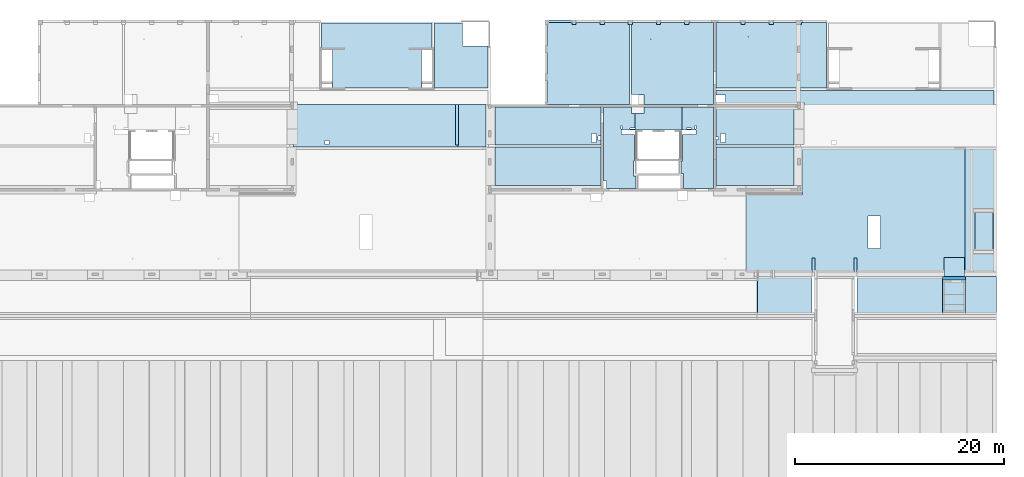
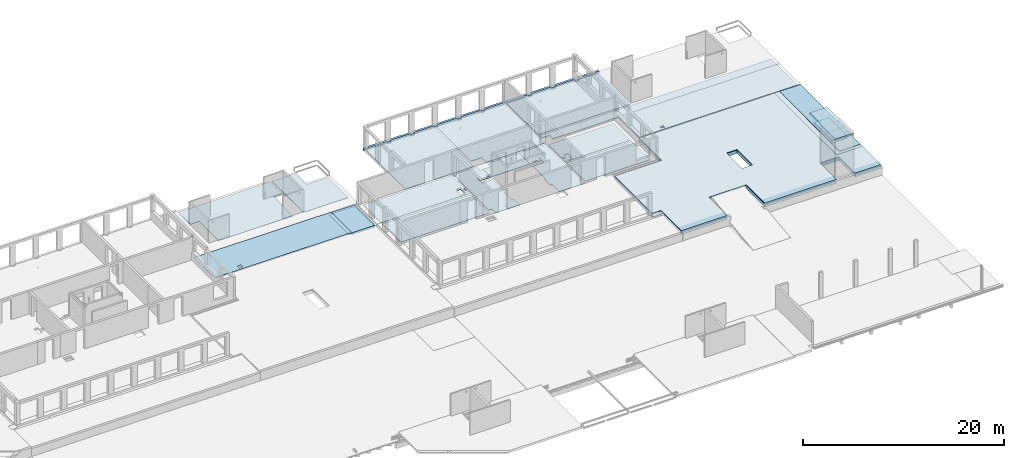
# One storey, part 17 of 36: 27 slabs, 24 openings.
"""IFC2X3 building model written with IfcOpenShell, lengths in millimetres."""

from ifc_helpers import new_model, entity, si_unit, converted_unit, derived_unit, direction, frame, frame_2d, origin, origin_2d_with_axis, place, context, subcontext, project, spatial, polyline, rectangle, circle, outline, extrude, clip, halfspace, material, layer, layer_set, layer_usage, element, save


model = new_model("IFC2X3")

# Units and contexts
model_context = context("Model", 3, precision=0.01, world=origin(), true_north=direction((6.12303176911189e-17, 1.0)))
body_context = subcontext(model_context, "Body", "Model", "MODEL_VIEW")
ifc_project = project(units=[si_unit("LENGTHUNIT", "METRE", prefix="MILLI"), si_unit("AREAUNIT", "SQUARE_METRE"), si_unit("VOLUMEUNIT", "CUBIC_METRE"), converted_unit("PLANEANGLEUNIT", "DEGREE", entity("IfcRatioMeasure", 0.0174532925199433), si_unit("PLANEANGLEUNIT", "RADIAN"), dimensions=[0, 0, 0, 0, 0, 0, 0]), si_unit("MASSUNIT", "GRAM", prefix="KILO"), derived_unit("MASSDENSITYUNIT", [(si_unit("MASSUNIT", "GRAM", prefix="KILO"), 1), (si_unit("LENGTHUNIT", "METRE"), -3)]), si_unit("TIMEUNIT", "SECOND"), si_unit("FREQUENCYUNIT", "HERTZ"), si_unit("THERMODYNAMICTEMPERATUREUNIT", "DEGREE_CELSIUS"), derived_unit("THERMALTRANSMITTANCEUNIT", [(si_unit("MASSUNIT", "GRAM", prefix="KILO"), 1), (si_unit("THERMODYNAMICTEMPERATUREUNIT", "KELVIN"), -1), (si_unit("TIMEUNIT", "SECOND"), -3)]), derived_unit("VOLUMETRICFLOWRATEUNIT", [(si_unit("LENGTHUNIT", "METRE"), 3), (si_unit("TIMEUNIT", "SECOND"), -1)]), si_unit("ELECTRICCURRENTUNIT", "AMPERE"), si_unit("ELECTRICVOLTAGEUNIT", "VOLT"), si_unit("POWERUNIT", "WATT"), si_unit("FORCEUNIT", "NEWTON", prefix="KILO"), si_unit("ILLUMINANCEUNIT", "LUX"), si_unit("LUMINOUSFLUXUNIT", "LUMEN"), si_unit("LUMINOUSINTENSITYUNIT", "CANDELA"), derived_unit("USERDEFINED", [(si_unit("MASSUNIT", "GRAM", prefix="KILO"), -1), (si_unit("LENGTHUNIT", "METRE"), -2), (si_unit("TIMEUNIT", "SECOND"), 3), (si_unit("LUMINOUSFLUXUNIT", "LUMEN"), 1)]), derived_unit("LINEARVELOCITYUNIT", [(si_unit("LENGTHUNIT", "METRE"), 1), (si_unit("TIMEUNIT", "SECOND"), -1)]), si_unit("PRESSUREUNIT", "PASCAL"), derived_unit("USERDEFINED", [(si_unit("LENGTHUNIT", "METRE"), -2), (si_unit("MASSUNIT", "GRAM", prefix="KILO"), 1), (si_unit("TIMEUNIT", "SECOND"), -2)])], contexts=[model_context])

# Site, building, storey
site_placement = place(None, origin())
site = spatial("IfcSite", under=ifc_project, at=site_placement, Name="Default", CompositionType="ELEMENT")
building_placement = place(site_placement, origin())
building = spatial("IfcBuilding", under=site, at=building_placement, Name="niet gebruiken", CompositionType="ELEMENT")
storey_placement = place(building_placement, frame((0.0, 0.0, 12600.0)))
storey = spatial("IfcBuildingStorey", under=building, at=storey_placement, Name="04 vierde verdieping", CompositionType="ELEMENT", Elevation=12600.0)

# Slabs
ifc_material_1 = material(Name="NLRS_f2_beton prefab")
ifc_layer_1 = layer(ifc_material_1, 400.0)
ifc_layer_set_1 = layer_set([ifc_layer_1], Name="Floor:NLRS_23.21_FL_kanaalplaat d=400_gen")
ifc_layer_usage_1 = layer_usage(ifc_layer_set_1, "AXIS3", "POSITIVE", 0.0)
slab_1_placement = place(storey_placement, origin())
element("IfcSlab", 1, at=slab_1_placement, inside=storey, material=ifc_layer_usage_1, Name="Floor:NLRS_23.21_FL_kanaalplaat d=400_gen", ObjectType="Floor:NLRS_23.21_FL_kanaalplaat d=400_gen", PredefinedType="FLOOR", context=body_context, shape_type="SweptSolid", body=[
    extrude(outline(polyline([(-2353.33333333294, -1776.66666666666), (1071.6666666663, -1776.66666666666), (1071.6666666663, -1676.66666666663), (1281.66666666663, -1676.66666666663), (1281.66666666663, 3453.33333333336), (-2353.33333333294, 3453.33333333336), (-2353.33333333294, -1776.66666666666)])), frame((103046.666666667, 27374.3333333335, -240.0), z_axis=(0.0, 0.0, -1.0), x_axis=(0.0, 1.0, 0.0)), (0.0, 0.0, 1.0), 400.0),
])
ifc_layer_usage_2 = layer_usage(ifc_layer_set_1, "AXIS3", "POSITIVE", 0.0)
slab_2_placement = place(storey_placement, frame((110845.0, 25021.0, -640.0)))
element("IfcSlab", 2, at=slab_2_placement, inside=storey, material=ifc_layer_usage_2, Name="Floor:NLRS_23.21_FL_kanaalplaat d=400_gen", ObjectType="Floor:NLRS_23.21_FL_kanaalplaat d=400_gen", PredefinedType="FLOOR", context=body_context, shape_type="SweptSolid", body=[
    extrude(rectangle(XDim=8210.00000000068, YDim=3639.99999999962, at=frame_2d((2572.49999999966, 0.0), x_axis=(-1.0, 0.0))), frame((6677.5, 1820.0, 400.0), z_axis=(0.0, 0.0, -1.0), x_axis=(-1.0, 0.0, 0.0)), (0.0, 0.0, 1.0), 400.0),
])
slab_3_placement = place(storey_placement, frame((110845.0, 25021.0, -640.0)))
element("IfcSlab", 3, at=slab_3_placement, inside=storey, material=ifc_layer_usage_2, Name="Floor:NLRS_23.21_FL_kanaalplaat d=400_gen:2", ObjectType="Floor:NLRS_23.21_FL_kanaalplaat d=400_gen", PredefinedType="FLOOR", context=body_context, shape_type="SweptSolid", body=[
    extrude(rectangle(XDim=2954.99999999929, YDim=3639.99999999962, at=frame_2d((-5200.0, 0.0), x_axis=(1.0, 0.0))), frame((6677.5, 1820.0, 400.0), z_axis=(0.0, 0.0, -1.0), x_axis=(-1.0, 0.0, 0.0)), (0.0, 0.0, 1.0), 400.0),
])

# Slab, openings
ifc_layer_usage_3 = layer_usage(ifc_layer_set_1, "AXIS3", "POSITIVE", 0.0)
slab_4_placement = place(storey_placement, frame((100225.0, 29101.0, -640.0)))
slab_4 = element("IfcSlab", 4, at=slab_4_placement, inside=storey, material=ifc_layer_usage_3, Name="Floor:NLRS_23.21_FL_kanaalplaat d=400_gen", ObjectType="Floor:NLRS_23.21_FL_kanaalplaat d=400_gen", PredefinedType="FLOOR", context=body_context, shape_type="SweptSolid", body=[
    extrude(outline(polyline([(-11987.5000000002, 5970.0), (-11987.5000000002, 74.0), (-9487.50000000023, 74.0), (-9487.50000000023, -4216.0), (-11987.5000000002, -4216.0), (-11987.5000000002, -5970.0), (1367.50000000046, -5970.0), (1367.50000000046, -4625.0), (1657.50000000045, -4625.0), (1657.50000000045, -5970.0), (5417.50000000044, -5970.0), (5417.50000000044, -4625.0), (5707.50000000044, -4625.0), (5707.50000000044, -5970.0), (11987.5000000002, -5970.0), (11987.5000000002, 1465.0), (6587.50000000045, 1465.0), (6587.50000000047, 5970.0), (-11987.5000000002, 5970.0)])), frame((11987.5000000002, 5970.0, 400.0), z_axis=(0.0, 0.0, -1.0), x_axis=(-1.0, 0.0, 0.0)), (0.0, 0.0, 1.0), 400.0),
])
opening_1_placement = place(slab_4_placement, origin())
element("IfcOpeningElement", 5, at=opening_1_placement, cuts=slab_4, ObjectType="Opening", context=body_context, shape_type="SweptSolid", body=[
    extrude(rectangle(XDim=1200.0, YDim=3100.0, at=origin_2d_with_axis()), frame((12275.0, 3805.0, 230.0), z_axis=(0.0, 0.0, 1.0), x_axis=(-1.0, 0.0, 0.0)), (0.0, 0.0, 1.0), 249.999999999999),
])
opening_2_placement = place(slab_4_placement, frame((12275.0, 3805.0, 400.0)))
element("IfcOpeningElement", 6, at=opening_2_placement, cuts=slab_4, Name="Floor:NLRS_23.21_FL_kanaalplaat d=400_gen:2", ObjectType="Opening", context=body_context, shape_type="SweptSolid", body=[
    extrude(rectangle(XDim=3100.00000000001, YDim=1200.0, at=origin_2d_with_axis()), frame((0.0, 0.0, 0.0), z_axis=(0.0, 0.0, -1.0), x_axis=(0.0, -1.0, 0.0)), (0.0, 0.0, 1.0), 400.0),
])

ifc_material_2 = material(Name="NLRS_f2_beton ihwg")
ifc_layer_2 = layer(ifc_material_2, 80.0)
ifc_layer_set_2 = layer_set([ifc_layer_2], Name="Floor:NLRS_23.21_FL_druklaag d=80_gen")
ifc_layer_usage_4 = layer_usage(ifc_layer_set_2, "AXIS3", "POSITIVE", 0.0)
slab_5_placement = place(storey_placement, frame((100225.0, 25001.0, -240.0)))
slab_5 = element("IfcSlab", 7, at=slab_5_placement, inside=storey, material=ifc_layer_usage_4, Name="Floor:NLRS_23.21_FL_druklaag d=80_gen", ObjectType="Floor:NLRS_23.21_FL_druklaag d=80_gen", PredefinedType="FLOOR", context=body_context, shape_type="SweptSolid", body=[
    extrude(outline(polyline([(11987.499999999, 3535.0), (6587.50000000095, 3535.0), (6587.50000000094, 8020.0), (-8987.49999999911, 8020.0), (-8987.49999999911, -4340.0), (-11987.499999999, -4340.0), (-11987.499999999, -8020.0), (-9012.49999999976, -8020.0), (-9012.49999999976, -4715.0), (-6862.49999999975, -4715.0), (-6862.49999999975, -8020.0), (1387.50000000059, -8020.0), (1387.50000000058, -4340.0), (5692.49999999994, -4340.0), (5692.49999999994, -8020.0), (10952.5, -8020.0), (10952.5, -3940.0), (11987.499999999, -3940.0), (11987.499999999, 3535.0)])), frame((11987.499999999, 8020.0, 80.0), z_axis=(0.0, 0.0, -1.0), x_axis=(-1.0, 0.0, 0.0)), (0.0, 0.0, 1.0), 79.9999999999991),
])
opening_3_placement = place(slab_5_placement, origin())
element("IfcOpeningElement", 8, at=opening_3_placement, cuts=slab_5, ObjectType="Opening", context=body_context, shape_type="SweptSolid", body=[
    extrude(rectangle(XDim=1200.0, YDim=3100.0, at=origin_2d_with_axis()), frame((12275.0, 7905.0, -170.0), z_axis=(0.0, 0.0, 1.0), x_axis=(-1.0, 0.0, 0.0)), (0.0, 0.0, 1.0), 249.999999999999),
])
opening_4_placement = place(slab_5_placement, origin())
element("IfcOpeningElement", 9, at=opening_4_placement, cuts=slab_5, ObjectType="Opening", context=body_context, shape_type="SweptSolid", body=[
    extrude(rectangle(XDim=300.000000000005, YDim=5449.9999999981, at=origin_2d_with_axis()), frame((2675.0, 11705.0, 90.0), z_axis=(0.0, 0.0, 1.0), x_axis=(0.0, 1.0, 0.0)), (0.0, 0.0, 1.0), 60.0000000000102),
])

# Slabs
ifc_layer_3 = layer(ifc_material_2, 250.0)
ifc_layer_set_3 = layer_set([ifc_layer_3], Name="Floor:NLRS_23.21_FL_breedplaat d=70/250_schil apart_gen")
ifc_layer_usage_5 = layer_usage(ifc_layer_set_3, "AXIS3", "POSITIVE", 0.0)
slab_6_placement = place(storey_placement, frame((80900.0, 53006.0, -340.0)))
element("IfcSlab", 10, at=slab_6_placement, inside=storey, material=ifc_layer_usage_5, Name="Floor:NLRS_23.21_FL_breedplaat d=70/250_schil apart_gen", ObjectType="Floor:NLRS_23.21_FL_breedplaat d=70/250_schil apart_gen", PredefinedType="FLOOR", context=body_context, shape_type="SweptSolid", body=[
    extrude(outline(polyline([(13540.0, 125.0), (-13540.0, 125.0), (-13540.0, -125.0), (-11065.0, -125.0), (-11065.0, -285.0), (-10655.0, -285.0), (-10655.0, -125.0), (-8365.0, -125.0), (-8365.0, -285.0), (-7955.0, -285.0), (-7955.0, -125.0), (-5665.0, -125.0), (-5665.0, -285.0), (-5255.0, -285.0), (-5255.0, -125.0), (-265.0, -125.0), (-265.0, -285.0), (145.0, -285.0), (145.0, -125.0), (2435.0, -125.0), (2435.0, -285.0), (2845.0, -285.0), (2845.0, -125.0), (5135.0, -125.0), (5135.0, -285.0), (5545.0, -285.0), (5545.0, -125.0), (7835.0, -125.0), (7835.0, -285.0), (8245.0, -285.0), (8245.0, -125.0), (10535.0, -125.0), (10535.0, -285.0), (10945.0, -285.0), (10945.0, -125.0), (13540.0, -125.0), (13540.0, 125.0)])), frame((13540.0, 125.0, 250.0), z_axis=(0.0, 0.0, -1.0), x_axis=(-1.0, 0.0, 0.0)), (0.0, 0.0, 1.0), 249.999999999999),
])
ifc_layer_4 = layer(ifc_material_1, 200.0)
ifc_layer_set_4 = layer_set([ifc_layer_4], Name="Floor:NLRS_27.21_FL_beton prefab d=200_gen")
ifc_layer_usage_6 = layer_usage(ifc_layer_set_4, "AXIS3", "POSITIVE", 0.0)
slab_7_placement = place(storey_placement, origin())
element("IfcSlab", 11, at=slab_7_placement, inside=storey, material=ifc_layer_usage_6, Name="Floor:NLRS_27.21_FL_beton prefab d=200_gen", ObjectType="Floor:NLRS_27.21_FL_beton prefab d=200_gen", PredefinedType="ROOF", context=body_context, shape_type="SweptSolid", body=[
    extrude(outline(polyline([(-2851.25, -1075.0), (228.750000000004, -1075.0), (228.750000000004, -995.0), (2393.75, -995.0), (2393.75, 995.0), (228.75, 995.0), (228.75, 1075.0), (-2851.25, 1075.0), (-2851.25, -1075.0)])), frame((120150.0, 28077.2500000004, 4610.0), z_axis=(0.0, 0.0, -1.0), x_axis=(0.0, 1.0, 0.0)), (0.0, 0.0, 1.0), 200.0),
])
ifc_layer_5 = layer(ifc_material_2, 410.0)
ifc_layer_set_5 = layer_set([ifc_layer_5], Name="Floor:NLRS_23.21_FL_beton ihwg d=410_gen")
ifc_layer_usage_7 = layer_usage(ifc_layer_set_5, "AXIS3", "POSITIVE", 0.0)
slab_8_placement = place(storey_placement, origin())
element("IfcSlab", 12, at=slab_8_placement, inside=storey, material=ifc_layer_usage_7, Name="Floor:NLRS_23.21_FL_beton ihwg d=410_gen", ObjectType="Floor:NLRS_23.21_FL_beton ihwg d=410_gen", PredefinedType="FLOOR", context=body_context, shape_type="SweptSolid", body=[
    extrude(rectangle(XDim=374.999999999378, YDim=2190.0, at=frame_2d((2.1600499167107e-12, -8.64019966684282e-12), x_axis=(1.0, 0.0))), frame((120150.0, 28493.5000000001, -240.0), z_axis=(0.0, 0.0, -1.0), x_axis=(0.0, 1.0, 0.0)), (0.0, 0.0, 1.0), 410.0),
])
ifc_layer_6 = layer(ifc_material_1, 70.0)
ifc_layer_set_6 = layer_set([ifc_layer_6], Name="Floor:NLRS_23.21_FL_breedplaatschil d=70_gen")
ifc_layer_usage_8 = layer_usage(ifc_layer_set_6, "AXIS3", "POSITIVE", 0.0)
slab_9_placement = place(storey_placement, origin())
element("IfcSlab", 13, at=slab_9_placement, inside=storey, material=ifc_layer_usage_8, Name="Floor:NLRS_23.21_FL_breedplaatschil d=70_gen", ObjectType="Floor:NLRS_23.21_FL_breedplaatschil d=70_gen", PredefinedType="FLOOR", context=body_context, shape_type="SweptSolid", body=[
    extrude(outline(polyline([(360.0, -5295.0), (2770.0, -5295.0), (2770.0, 5295.0), (360.0, 5295.0), (360.0, 4275.0), (-3490.0, 4275.0), (-3490.0, -4275.0), (360.0, -4275.0), (360.0, -5295.0)])), frame((64800.0, 50216.0, -270.0), z_axis=(0.0, 0.0, -1.0), x_axis=(0.0, 1.0, 0.0)), (0.0, 0.0, 1.0), 69.9999999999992),
])
ifc_layer_usage_9 = layer_usage(ifc_layer_set_6, "AXIS3", "POSITIVE", 0.0)
slab_10_placement = place(storey_placement, origin())
element("IfcSlab", 14, at=slab_10_placement, inside=storey, material=ifc_layer_usage_9, Name="Floor:NLRS_23.21_FL_breedplaatschil d=70_gen", ObjectType="Floor:NLRS_23.21_FL_breedplaatschil d=70_gen", PredefinedType="FLOOR", context=body_context, shape_type="SweptSolid", body=[
    extrude(outline(polyline([(-3430.0, -2613.33333333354), (2830.0, -2613.33333333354), (2830.0, 61.6666666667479), (600.0, 61.6666666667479), (600.0, 2551.66666666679), (-3430.0, 2551.66666666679), (-3430.0, -2613.33333333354)])), frame((72918.3333333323, 50156.0, -270.0), z_axis=(0.0, 0.0, -1.0), x_axis=(0.0, 1.0, 0.0)), (0.0, 0.0, 1.0), 69.9999999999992),
])

# Slab, openings
ifc_layer_usage_10 = layer_usage(ifc_layer_set_6, "AXIS3", "POSITIVE", 0.0)
slab_11_placement = place(storey_placement, frame((86505.0, 37086.0, -340.0)))
slab_11 = element("IfcSlab", 15, at=slab_11_placement, inside=storey, material=ifc_layer_usage_10, Name="Floor:NLRS_23.21_FL_breedplaatschil d=70_gen", ObjectType="Floor:NLRS_23.21_FL_breedplaatschil d=70_gen", PredefinedType="FLOOR", context=body_context, shape_type="SweptSolid", body=[
    extrude(outline(polyline([(2295.00015089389, 1250.0), (2295.00015089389, -1280.0), (2390.0, -1280.0), (2390.0, -2700.0), (2170.00021676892, -2700.0), (2170.00021676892, -3920.0), (4975.0, -3920.0), (4975.0, -3180.0), (5295.0, -3180.0), (5295.0, 3920.0), (2275.0001508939, 3920.0), (2275.0001508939, 1690.0), (3572.50015089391, 1690.0), (3572.50015089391, 1250.0), (2295.00015089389, 1250.0)])), frame((5295.0, 3920.0, 70.0), z_axis=(0.0, 0.0, -1.0), x_axis=(-1.0, 0.0, 0.0)), (0.0, 0.0, 1.0), 69.9999999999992),
])
placement_1 = place(slab_11_placement, origin())
element("IfcOpeningElement", 16, at=placement_1, cuts=slab_11, ObjectType="Opening", context=body_context, shape_type="SweptSolid", body=[
    extrude(rectangle(XDim=1200.0, YDim=1800.00000000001, at=origin_2d_with_axis()), frame((3295.0, 8105.0, 0.0), z_axis=(0.0, 0.0, 1.0), x_axis=(-1.0, 0.0, 0.0)), (0.0, 0.0, 1.0), 99.9999999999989),
])
placement_2 = place(slab_11_placement, origin())
element("IfcOpeningElement", 17, at=placement_2, cuts=slab_11, ObjectType="Opening", context=body_context, shape_type="SweptSolid", body=[
    extrude(rectangle(XDim=100.000000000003, YDim=440.000000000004, at=origin_2d_with_axis()), frame((2799.9998491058, 5760.0, 0.0), z_axis=(0.0, 0.0, 1.0), x_axis=(0.0, -1.0, 0.0)), (0.0, 0.0, 1.0), 249.999999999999),
])
placement_3 = place(slab_11_placement, origin())
element("IfcOpeningElement", 18, at=placement_3, cuts=slab_11, ObjectType="Opening", context=body_context, shape_type="SweptSolid", body=[
    extrude(rectangle(XDim=1297.50000000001, YDim=440.000000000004, at=origin_2d_with_axis()), frame((8218.7498491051, 5390.0, 0.0), z_axis=(0.0, 0.0, 1.0), x_axis=(-1.0, 0.0, 0.0)), (0.0, 0.0, 1.0), 249.999999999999),
])
placement_4 = place(slab_11_placement, origin())
element("IfcOpeningElement", 19, at=placement_4, cuts=slab_11, ObjectType="Opening", context=body_context, shape_type="SweptSolid", body=[
    extrude(rectangle(XDim=100.000000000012, YDim=340.000000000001, at=origin_2d_with_axis()), frame((1750.0, 5880.0, 0.0), z_axis=(0.0, 0.0, 1.0), x_axis=(-1.0, 0.0, 0.0)), (0.0, 0.0, 1.0), 249.999999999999),
])
placement_5 = place(slab_11_placement, origin())
element("IfcOpeningElement", 20, at=placement_5, cuts=slab_11, ObjectType="Opening", context=body_context, shape_type="SweptSolid", body=[
    extrude(rectangle(XDim=489.999999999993, YDim=100.000000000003, at=origin_2d_with_axis()), frame((8222.49999999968, 5760.0, 0.0), z_axis=(0.0, 0.0, 1.0), x_axis=(-1.0, 0.0, 0.0)), (0.0, 0.0, 1.0), 249.999999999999),
])
placement_6 = place(slab_11_placement, origin())
element("IfcOpeningElement", 21, at=placement_6, cuts=slab_11, ObjectType="Opening", context=body_context, shape_type="SweptSolid", body=[
    extrude(rectangle(XDim=340.000000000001, YDim=100.000000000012, at=origin_2d_with_axis()), frame((8859.0, 5880.0, 0.0), z_axis=(0.0, 0.0, 1.0), x_axis=(0.0, -1.0, 0.0)), (0.0, 0.0, 1.0), 249.999999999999),
])

slab_12_placement = place(storey_placement, frame((86505.0, 37086.0, -340.0)))
slab_12 = element("IfcSlab", 22, at=slab_12_placement, inside=storey, material=ifc_layer_usage_10, Name="Floor:NLRS_23.21_FL_breedplaatschil d=70_gen:2", ObjectType="Floor:NLRS_23.21_FL_breedplaatschil d=70_gen", PredefinedType="FLOOR", context=body_context, shape_type="SweptSolid", body=[
    extrude(outline(polyline([(-2274.99984910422, 1690.0), (-2274.99984910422, 3920.0), (-5295.0, 3920.0), (-5295.0, -3920.0), (-2390.0, -3920.0), (-2390.0, -2460.0), (-2170.0, -2460.0), (-2170.0, -1280.0), (-2294.99984910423, -1280.0), (-2294.99984910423, 1690.0), (-2274.99984910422, 1690.0)])), frame((5295.0, 3920.0, 70.0), z_axis=(0.0, 0.0, -1.0), x_axis=(-1.0, 0.0, 0.0)), (0.0, 0.0, 1.0), 69.9999999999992),
])
element("IfcOpeningElement", 23, at=placement_1, cuts=slab_12, ObjectType="Opening", context=body_context, shape_type="SweptSolid", body=[
    extrude(rectangle(XDim=1200.0, YDim=1800.00000000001, at=origin_2d_with_axis()), frame((3295.0, 8105.0, 0.0), z_axis=(0.0, 0.0, 1.0), x_axis=(-1.0, 0.0, 0.0)), (0.0, 0.0, 1.0), 99.9999999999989),
])
element("IfcOpeningElement", 24, at=placement_2, cuts=slab_12, ObjectType="Opening", context=body_context, shape_type="SweptSolid", body=[
    extrude(rectangle(XDim=100.000000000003, YDim=440.000000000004, at=origin_2d_with_axis()), frame((2799.9998491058, 5760.0, 0.0), z_axis=(0.0, 0.0, 1.0), x_axis=(0.0, -1.0, 0.0)), (0.0, 0.0, 1.0), 249.999999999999),
])
element("IfcOpeningElement", 25, at=placement_3, cuts=slab_12, ObjectType="Opening", context=body_context, shape_type="SweptSolid", body=[
    extrude(rectangle(XDim=1297.50000000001, YDim=440.000000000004, at=origin_2d_with_axis()), frame((8218.7498491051, 5390.0, 0.0), z_axis=(0.0, 0.0, 1.0), x_axis=(-1.0, 0.0, 0.0)), (0.0, 0.0, 1.0), 249.999999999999),
])
element("IfcOpeningElement", 26, at=placement_4, cuts=slab_12, ObjectType="Opening", context=body_context, shape_type="SweptSolid", body=[
    extrude(rectangle(XDim=100.000000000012, YDim=340.000000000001, at=origin_2d_with_axis()), frame((1750.0, 5880.0, 0.0), z_axis=(0.0, 0.0, 1.0), x_axis=(-1.0, 0.0, 0.0)), (0.0, 0.0, 1.0), 249.999999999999),
])
element("IfcOpeningElement", 27, at=placement_5, cuts=slab_12, ObjectType="Opening", context=body_context, shape_type="SweptSolid", body=[
    extrude(rectangle(XDim=489.999999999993, YDim=100.000000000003, at=origin_2d_with_axis()), frame((8222.49999999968, 5760.0, 0.0), z_axis=(0.0, 0.0, 1.0), x_axis=(-1.0, 0.0, 0.0)), (0.0, 0.0, 1.0), 249.999999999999),
])
element("IfcOpeningElement", 28, at=placement_6, cuts=slab_12, ObjectType="Opening", context=body_context, shape_type="SweptSolid", body=[
    extrude(rectangle(XDim=340.000000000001, YDim=100.000000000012, at=origin_2d_with_axis()), frame((8859.0, 5880.0, 0.0), z_axis=(0.0, 0.0, 1.0), x_axis=(0.0, -1.0, 0.0)), (0.0, 0.0, 1.0), 249.999999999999),
])

# Slab
ifc_layer_usage_11 = layer_usage(ifc_layer_set_6, "AXIS3", "POSITIVE", 0.0)
slab_13_placement = place(storey_placement, origin())
element("IfcSlab", 29, at=slab_13_placement, inside=storey, material=ifc_layer_usage_11, Name="Floor:NLRS_23.21_FL_breedplaatschil d=70_gen", ObjectType="Floor:NLRS_23.21_FL_breedplaatschil d=70_gen", PredefinedType="FLOOR", context=body_context, shape_type="SweptSolid", body=[
    extrude(outline(polyline([(-1261.66666666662, -1808.33338363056), (313.333333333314, -1808.33338363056), (313.333333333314, -933.333232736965), (948.333333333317, -933.333232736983), (948.333333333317, 2741.66661636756), (-1261.66666666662, 2741.66661636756), (-1261.66666666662, -1808.33338363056)])), frame((91333.3332327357, 43977.6666666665, -270.0), z_axis=(0.0, 0.0, -1.0), x_axis=(0.0, 1.0, 0.0)), (0.0, 0.0, 1.0), 70.0000000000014),
])

# Slab, openings
ifc_layer_usage_12 = layer_usage(ifc_layer_set_6, "AXIS3", "POSITIVE", 0.0)
slab_14_placement = place(storey_placement, frame((76105.0, 41291.0, -340.0)))
slab_14 = element("IfcSlab", 30, at=slab_14_placement, inside=storey, material=ifc_layer_usage_12, Name="Floor:NLRS_23.21_FL_breedplaatschil d=70_gen", ObjectType="Floor:NLRS_23.21_FL_breedplaatschil d=70_gen", PredefinedType="FLOOR", context=body_context, shape_type="SweptSolid", body=[
    extrude(rectangle(XDim=10190.0, YDim=3635.0000000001, at=frame_2d((0.0, 0.0), x_axis=(-1.0, 0.0))), frame((5095.0, 1817.50000000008, 70.0), z_axis=(0.0, 0.0, -1.0), x_axis=(-1.0, 0.0, 0.0)), (0.0, 0.0, 1.0), 69.9999999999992),
])
opening_17_placement = place(slab_14_placement, origin())
element("IfcOpeningElement", 31, at=opening_17_placement, cuts=slab_14, ObjectType="Opening", context=body_context, shape_type="SweptSolid", body=[
    extrude(rectangle(XDim=489.999999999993, YDim=900.000000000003, at=origin_2d_with_axis()), frame((9515.0, 645.0, 0.0), z_axis=(0.0, 0.0, 1.0), x_axis=(-1.0, 0.0, 0.0)), (0.0, 0.0, 1.0), 249.999999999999),
])
opening_18_placement = place(slab_14_placement, origin())
element("IfcOpeningElement", 32, at=opening_18_placement, cuts=slab_14, ObjectType="Opening", context=body_context, shape_type="SweptSolid", body=[
    extrude(rectangle(XDim=249.999999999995, YDim=450.000000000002, at=origin_2d_with_axis()), frame((10030.0, 624.788729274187, 0.0), z_axis=(0.0, 0.0, 1.0), x_axis=(-1.0, 0.0, 0.0)), (0.0, 0.0, 1.0), 249.999999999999),
])

# Slab
ifc_layer_usage_13 = layer_usage(ifc_layer_set_6, "AXIS3", "POSITIVE", 0.0)
slab_15_placement = place(storey_placement, origin())
element("IfcSlab", 33, at=slab_15_placement, inside=storey, material=ifc_layer_usage_13, Name="Floor:NLRS_23.21_FL_breedplaatschil d=70_gen", ObjectType="Floor:NLRS_23.21_FL_breedplaatschil d=70_gen", PredefinedType="FLOOR", context=body_context, shape_type="SweptSolid", body=[
    extrude(rectangle(XDim=3694.99999999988, YDim=10190.0, at=frame_2d((1.30739863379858e-11, 4.54747350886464e-12), x_axis=(1.0, 0.0))), frame((81200.0, 39233.5, -270.0), z_axis=(0.0, 0.0, -1.0), x_axis=(0.0, 1.0, 0.0)), (0.0, 0.0, 1.0), 69.9999999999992),
])

# Slab, openings
ifc_layer_usage_14 = layer_usage(ifc_layer_set_6, "AXIS3", "POSITIVE", 0.0)
slab_16_placement = place(storey_placement, frame((97305.0, 41291.0, -340.0)))
slab_16 = element("IfcSlab", 34, at=slab_16_placement, inside=storey, material=ifc_layer_usage_14, Name="Floor:NLRS_23.21_FL_breedplaatschil d=70_gen", ObjectType="Floor:NLRS_23.21_FL_breedplaatschil d=70_gen", PredefinedType="FLOOR", context=body_context, shape_type="SweptSolid", body=[
    extrude(rectangle(XDim=3410.00000000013, YDim=7490.00000000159, at=frame_2d((0.0, 0.0), x_axis=(0.0, -1.0))), frame((3745.0, 1705.0, 70.0), z_axis=(0.0, 0.0, -1.0), x_axis=(-1.0, 0.0, 0.0)), (0.0, 0.0, 1.0), 69.9999999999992),
])
opening_19_placement = place(slab_16_placement, origin())
element("IfcOpeningElement", 35, at=opening_19_placement, cuts=slab_16, ObjectType="Opening", context=body_context, shape_type="SweptSolid", body=[
    extrude(rectangle(XDim=900.000000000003, YDim=500.000000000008, at=origin_2d_with_axis()), frame((670.0, 645.0, 0.0), z_axis=(0.0, 0.0, 1.0), x_axis=(0.0, -1.0, 0.0)), (0.0, 0.0, 1.0), 249.999999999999),
])
opening_20_placement = place(slab_16_placement, origin())
element("IfcOpeningElement", 36, at=opening_20_placement, cuts=slab_16, ObjectType="Opening", context=body_context, shape_type="SweptSolid", body=[
    extrude(rectangle(XDim=249.999999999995, YDim=250.000000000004, at=origin_2d_with_axis()), frame((145.0, 643.008926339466, 0.0), z_axis=(0.0, 0.0, 1.0), x_axis=(-1.0, 0.0, 0.0)), (0.0, 0.0, 1.0), 249.999999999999),
])

# Slab
ifc_layer_usage_15 = layer_usage(ifc_layer_set_6, "AXIS3", "POSITIVE", 0.0)
slab_17_placement = place(storey_placement, origin())
element("IfcSlab", 37, at=slab_17_placement, inside=storey, material=ifc_layer_usage_15, Name="Floor:NLRS_23.21_FL_breedplaatschil d=70_gen", ObjectType="Floor:NLRS_23.21_FL_breedplaatschil d=70_gen", PredefinedType="FLOOR", context=body_context, shape_type="SweptSolid", body=[
    extrude(rectangle(XDim=3694.99999999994, YDim=7490.00000000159, at=frame_2d((-6.48014975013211e-12, 0.0), x_axis=(1.0, 0.0))), frame((101050.0, 39233.4999999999, -270.0), z_axis=(0.0, 0.0, -1.0), x_axis=(0.0, 1.0, 0.0)), (0.0, 0.0, 1.0), 69.9999999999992),
])

# Slab, opening
ifc_layer_usage_16 = layer_usage(ifc_layer_set_6, "AXIS3", "POSITIVE", 0.0)
slab_18_placement = place(storey_placement, frame((97305.0, 46726.0, -340.0)))
slab_18 = element("IfcSlab", 38, at=slab_18_placement, inside=storey, material=ifc_layer_usage_16, Name="Floor:NLRS_23.21_FL_breedplaatschil d=70_gen", ObjectType="Floor:NLRS_23.21_FL_breedplaatschil d=70_gen", PredefinedType="FLOOR", context=body_context, shape_type="SweptSolid", body=[
    extrude(outline(polyline([(2885.0, 3150.0), (2885.0, 2990.0), (2515.0, 2990.0), (2515.0, 3150.0), (185.0, 3150.0), (185.0, 2990.0), (-185.0, 2990.0), (-185.0, 3150.0), (-2515.0, 3150.0), (-2515.0, 2990.0), (-2885.0, 2990.0), (-2885.0, 3150.0), (-5295.0, 3150.0), (-5295.0, -3150.0), (5295.0, -3150.0), (5295.0, 3150.0), (2885.0, 3150.0)])), frame((5295.0, 3150.0, 70.0), z_axis=(0.0, 0.0, -1.0), x_axis=(-1.0, 0.0, 0.0)), (0.0, 0.0, 1.0), 69.9999999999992),
])
opening_21_placement = place(storey_placement, frame((97305.0, 46726.0, -340.0)))
element("IfcOpeningElement", 39, at=opening_21_placement, cuts=slab_18, ObjectType="Opening", context=body_context, shape_type="SweptSolid", body=[
    extrude(circle(Radius=37.5, at=frame_2d((2200.0, 1780.0), x_axis=(1.0, 0.0))), frame((5295.0, 3150.0, 70.0), z_axis=(0.0, 0.0, -1.0), x_axis=(-1.0, 0.0, 0.0)), (0.0, 0.0, 1.0), 69.9999999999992),
])

# Slab
ifc_layer_usage_17 = layer_usage(ifc_layer_set_6, "AXIS3", "POSITIVE", 0.0)
slab_19_placement = place(storey_placement, origin())
element("IfcSlab", 40, at=slab_19_placement, inside=storey, material=ifc_layer_usage_17, Name="Floor:NLRS_23.21_FL_breedplaatschil d=70_gen", ObjectType="Floor:NLRS_23.21_FL_breedplaatschil d=70_gen", PredefinedType="FLOOR", context=body_context, shape_type="SweptSolid", body=[
    extrude(outline(polyline([(-6694.28571428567, -4475.71428571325), (1195.71428571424, -4475.71428571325), (1195.71428571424, -2090.71428571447), (1035.71428571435, -2090.71428571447), (1035.71428571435, -1720.71428571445), (1195.71428571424, -1720.71428571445), (1195.71428571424, 609.285714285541), (1035.71428571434, 609.285714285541), (1035.71428571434, 979.285714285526), (1195.71428571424, 979.285714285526), (1195.71428571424, 3309.28571428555), (1035.71428571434, 3309.28571428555), (1035.71428571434, 3389.28571428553), (-6694.2857142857, 3389.28571428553), (-6694.28571428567, -4475.71428571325)])), frame((85605.7142857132, 51830.2857142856, -270.0), z_axis=(0.0, 0.0, -1.0), x_axis=(0.0, 1.0, 0.0)), (0.0, 0.0, 1.0), 69.9999999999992),
])

# Slab, openings
ifc_layer_usage_18 = layer_usage(ifc_layer_set_6, "AXIS3", "POSITIVE", 0.0)
slab_20_placement = place(storey_placement, frame((89205.0, 45136.0, -340.0)))
slab_20 = element("IfcSlab", 41, at=slab_20_placement, inside=storey, material=ifc_layer_usage_18, Name="Floor:NLRS_23.21_FL_breedplaatschil d=70_gen", ObjectType="Floor:NLRS_23.21_FL_breedplaatschil d=70_gen", PredefinedType="FLOOR", context=body_context, shape_type="SweptSolid", body=[
    extrude(outline(polyline([(-1535.0, 3945.0), (-3945.0, 3945.0), (-3945.0, -3945.0), (3575.0, -3945.0), (3575.0, -3025.0), (3945.0, -3025.0), (3945.0, 3785.0), (3865.0, 3785.0), (3865.0, 3945.0), (1535.0, 3945.0), (1535.0, 3785.0), (1165.0, 3785.0), (1165.0, 3945.0), (-1165.0, 3945.0), (-1165.0, 3785.0), (-1535.0, 3785.0), (-1535.0, 3945.0)])), frame((3945.0, 3945.0, 70.0), z_axis=(0.0, 0.0, -1.0), x_axis=(-1.0, 0.0, 0.0)), (0.0, 0.0, 1.0), 69.9999999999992),
])
opening_22_placement = place(storey_placement, frame((89205.0, 45136.0, -340.0)))
element("IfcOpeningElement", 42, at=opening_22_placement, cuts=slab_20, ObjectType="Opening", context=body_context, shape_type="SweptSolid", body=[
    extrude(circle(Radius=37.5, at=frame_2d((2100.0, 2325.0), x_axis=(1.0, 0.0))), frame((3945.0, 3945.0, 70.0), z_axis=(0.0, 0.0, -1.0), x_axis=(-1.0, 0.0, 0.0)), (0.0, 0.0, 1.0), 69.9999999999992),
])
opening_23_placement = place(slab_20_placement, origin())
element("IfcOpeningElement", 43, at=opening_23_placement, cuts=slab_20, ObjectType="Opening", context=body_context, shape_type="SweptSolid", body=[
    extrude(rectangle(XDim=1200.0, YDim=1800.00000000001, at=origin_2d_with_axis()), frame((595.0, 55.0, 0.0), z_axis=(0.0, 0.0, 1.0), x_axis=(-1.0, 0.0, 0.0)), (0.0, 0.0, 1.0), 99.9999999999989),
])

# Slab, opening
ifc_layer_usage_19 = layer_usage(ifc_layer_set_6, "AXIS3", "POSITIVE", 0.0)
slab_21_placement = place(storey_placement, frame((97305.0, 41291.0, -340.0)))
slab_21 = element("IfcSlab", 44, at=slab_21_placement, inside=storey, material=ifc_layer_usage_19, Name="Floor:NLRS_23.21_FL_breedplaatschil d=70_gen", ObjectType="Floor:NLRS_23.21_FL_breedplaatschil d=70_gen", PredefinedType="FLOOR", context=body_context, shape_type="SweptSolid", body=[
    extrude(outline(polyline([(-13332.5000000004, 2612.4999999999), (-13332.5000000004, -2612.4999999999), (4882.50000000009, -2612.4999999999), (4882.50000000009, 1457.50000000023), (12412.5000000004, 1457.50000000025), (12412.5000000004, 2152.50000000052), (13332.5000000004, 2152.50000000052), (13332.5000000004, 2612.4999999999), (-13332.5000000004, 2612.4999999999)])), frame((13332.5000000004, 2612.4999999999, 70.0), z_axis=(0.0, 0.0, -1.0), x_axis=(-1.0, 0.0, 0.0)), (0.0, 0.0, 1.0), 69.9999999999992),
])
opening_24_placement = place(slab_21_placement, origin())
element("IfcOpeningElement", 45, at=opening_24_placement, cuts=slab_21, ObjectType="Opening", context=body_context, shape_type="SweptSolid", body=[
    extrude(rectangle(XDim=399.999999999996, YDim=400.000000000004, at=origin_2d_with_axis()), frame((11295.0, 220.0, -19.7970838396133), z_axis=(0.0, 0.0, 1.0), x_axis=(-1.0, 0.0, 0.0)), (0.0, 0.0, 1.0), 275.0),
])

# Slabs
ifc_layer_usage_20 = layer_usage(ifc_layer_set_3, "AXIS3", "POSITIVE", 0.0)
slab_22_placement = place(storey_placement, origin())
element("IfcSlab", 46, at=slab_22_placement, inside=storey, material=ifc_layer_usage_20, Name="Floor:NLRS_23.21_FL_breedplaat d=70/250_schil apart_gen", ObjectType="Floor:NLRS_23.21_FL_breedplaat d=70/250_schil apart_gen", PredefinedType="FLOOR", context=body_context, shape_type="SweptSolid", body=[
    extrude(outline(polyline([(-153.75, -1600.62499999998), (46.250000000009, -1600.62499999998), (96.2499999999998, -1600.62499999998), (96.2499999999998, -1370.62499999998), (46.2500000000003, -1370.62499999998), (46.2500000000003, 2514.37499999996), (-23.7500000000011, 2514.37499999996), (-153.75, 2514.37499999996), (-153.75, -1600.62499999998)])), frame((72605.0, 42661.6250000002, -293.75), z_axis=(1.0, 0.0, 0.0), x_axis=(0.0, 0.0, -1.0)), (0.0, 0.0, 1.0), 2669.99999999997),
])
ifc_layer_usage_21 = layer_usage(ifc_layer_set_6, "AXIS3", "POSITIVE", 0.0)
slab_23_placement = place(storey_placement, origin())
element("IfcSlab", 47, at=slab_23_placement, inside=storey, material=ifc_layer_usage_21, Name="Floor:NLRS_23.21_FL_breedplaatschil d=70_gen", ObjectType="Floor:NLRS_23.21_FL_breedplaatschil d=70_gen", PredefinedType="FLOOR", context=body_context, shape_type="SweptSolid", body=[
    extrude(rectangle(XDim=3884.99999999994, YDim=2919.99999999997, at=frame_2d((4.32009983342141e-12, 4.32009983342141e-12), x_axis=(1.0, 0.0))), frame((73815.0, 43233.5000000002, -340.0), z_axis=(0.0, 0.0, -1.0), x_axis=(0.0, 1.0, 0.0)), (0.0, 0.0, 1.0), 69.9999999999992),
])
ifc_layer_usage_22 = layer_usage(ifc_layer_set_2, "AXIS3", "POSITIVE", 0.0)
slab_24_placement = place(storey_placement, origin())
element("IfcSlab", 48, at=slab_24_placement, inside=storey, material=ifc_layer_usage_22, Name="Floor:NLRS_23.21_FL_druklaag d=80_gen", ObjectType="Floor:NLRS_23.21_FL_druklaag d=80_gen", PredefinedType="FLOOR", context=body_context, shape_type="SweptSolid", body=[
    extrude(rectangle(XDim=12380.0000000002, YDim=3000.00000000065, at=frame_2d((-4.09272615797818e-12, -8.64019966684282e-12), x_axis=(1.0, 0.0))), frame((122700.0, 34871.0, -160.0), z_axis=(0.0, 0.0, -1.0), x_axis=(0.0, 1.0, 0.0)), (0.0, 0.0, 1.0), 79.9999999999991),
])
ifc_layer_usage_23 = layer_usage(ifc_layer_set_1, "AXIS3", "POSITIVE", 0.0)
slab_25_placement = place(storey_placement, origin())
element("IfcSlab", 49, at=slab_25_placement, inside=storey, material=ifc_layer_usage_23, Name="Floor:NLRS_23.21_FL_kanaalplaat d=400_gen", ObjectType="Floor:NLRS_23.21_FL_kanaalplaat d=400_gen", PredefinedType="FLOOR", context=body_context, shape_type="SweptSolid", body=[
    extrude(rectangle(XDim=3609.99999999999, YDim=1739.98535136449, at=frame_2d((0.0, 8.69704308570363e-12), x_axis=(1.0, 0.0))), frame((123010.007324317, 33000.0, -240.0), z_axis=(0.0, 0.0, -1.0), x_axis=(0.0, 1.0, 0.0)), (0.0, 0.0, 1.0), 400.0),
])
ifc_layer_7 = layer(ifc_material_2, 1.0)
ifc_layer_set_7 = layer_set([ifc_layer_7], Name="Floor:NLRS_23.21_FL_beton bpv d=var_gen")
ifc_layer_usage_24 = layer_usage(ifc_layer_set_7, "AXIS3", "POSITIVE", 0.0)
slab_26_placement = place(storey_placement, origin())
element("IfcSlab", 50, at=slab_26_placement, inside=storey, material=ifc_layer_usage_24, Name="Floor:NLRS_23.21_FL_beton bpv d=var_gen", ObjectType="Floor:NLRS_23.21_FL_beton bpv d=var_gen", PredefinedType="FLOOR", context=body_context, shape_type="SweptSolid", body=[
    extrude(outline(polyline([(-2057.49999999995, -7890.0), (2057.49999999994, -7890.0), (2057.49999999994, 7890.0), (-2057.49999999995, 7890.0), (-2057.49999999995, -7890.0)]), holes=[polyline([(1407.50037247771, -4490.0), (1807.5003724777, -4490.0), (1807.5003724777, -4890.0), (1407.50037247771, -4890.0), (1407.50037247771, -4490.0)])]), frame((64690.0, 43118.5000000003, -92.0), z_axis=(0.0, 0.0, 1.0), x_axis=(0.0, -1.0, 0.0)), (0.0, 0.0, 1.0), 6.49997677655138),
])
ifc_layer_8 = layer(ifc_material_2, 1.0)
ifc_layer_set_8 = layer_set([ifc_layer_8], Name="Floor:NLRS_23.21_FL_beton ihwg d=var_gen")
ifc_layer_usage_25 = layer_usage(ifc_layer_set_8, "AXIS3", "POSITIVE", 0.0)
slab_27_placement = place(storey_placement, origin())
element("IfcSlab", 51, at=slab_27_placement, inside=storey, material=ifc_layer_usage_25, Name="Floor:NLRS_23.21_FL_beton ihwg d=var_gen", ObjectType="Floor:NLRS_23.21_FL_beton ihwg d=var_gen", PredefinedType="FLOOR", context=body_context, shape_type="Clipping", body=[
    clip(extrude(rectangle(XDim=11980.0092895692, YDim=2404.01337792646, at=frame_2d((4.54747350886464e-12, 0.0), x_axis=(1.0, 0.0))), frame((122997.993311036, 35071.0, -147.459526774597), z_axis=(0.0, 0.00124532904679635, -0.999999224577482), x_axis=(0.0, 0.999999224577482, 0.00124532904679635)), (-0.00124532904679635, 0.0, 0.999999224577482), 21.0000162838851), halfspace(frame((151250.0, 41061.0, -161.0), z_axis=(0.0, 0.0, -1.0), x_axis=(1.0, 0.0, 0.0)), False)),
])

save(model, "model.ifc")
